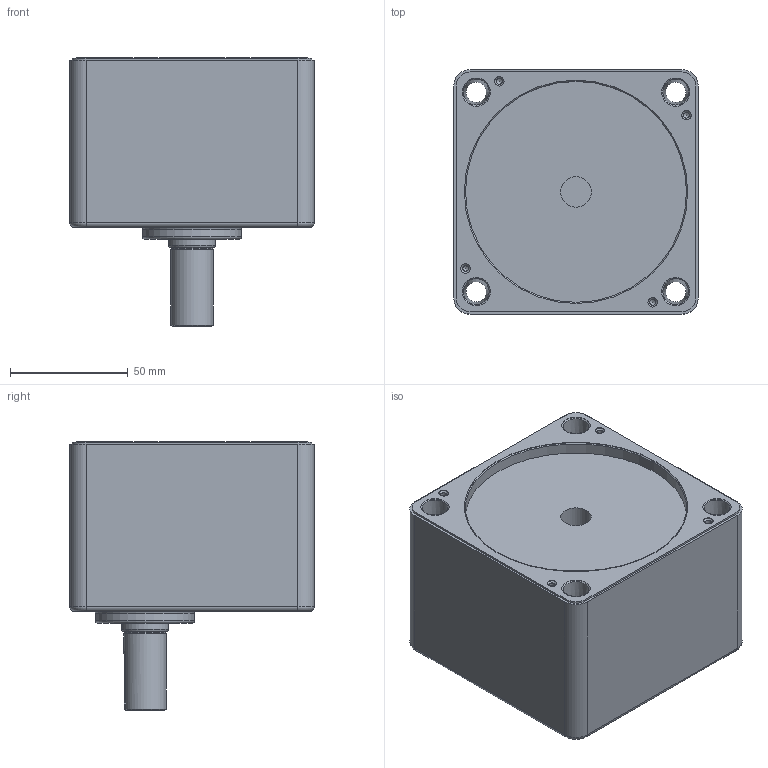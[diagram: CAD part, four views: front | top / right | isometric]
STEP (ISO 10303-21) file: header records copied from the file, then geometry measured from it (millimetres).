
FILE_DESCRIPTION(/* description */ (''),/* implementation_level */ '2;1');
FILE_NAME(/* name */ 'C:\Users\GGMDWG\Desktop\K10H□B.stp',/* time_stamp */ '2021-01-12T20:08:12+09:00',/* author */ ('GGMDWG'),/* organization */ (''),/* preprocessor_version */ 'ST-DEVELOPER v18.1',/* originating_system */ 'Autodesk Inventor 2021',/* authorisation */ '');
FILE_SCHEMA (('AUTOMOTIVE_DESIGN { 1 0 10303 214 3 1 1 }'));
Length unit declared in the file: millimetre
Products named in the file (1): 부품7
Bounding box: 104 x 104 x 114.2 mm (x, y, z)
Volume: 745866.3 mm3; surface area: 72707.4 mm2
Topology: 3 solids, 3 shells, 163 faces, 405 edges, 260 vertices
Faces by surface type: cylinder 67, plane 50, cone 31, torus 15
Full cylindrical faces by diameter (mm): 2 x1, 2.459 x4, 4 x4, 12 x4, 13 x1, 17.5 x1, 18 x1, 20 x1, 24.2 x1, 28.5 x1, 32 x2, 42 x1, 94 x1, 95 x1
Entity records: 5148 total; most frequent: DIRECTION 930, CARTESIAN_POINT 845, ORIENTED_EDGE 800, EDGE_CURVE 400, AXIS2_PLACEMENT_3D 369, VERTEX_POINT 260, CIRCLE 205, LINE 192
